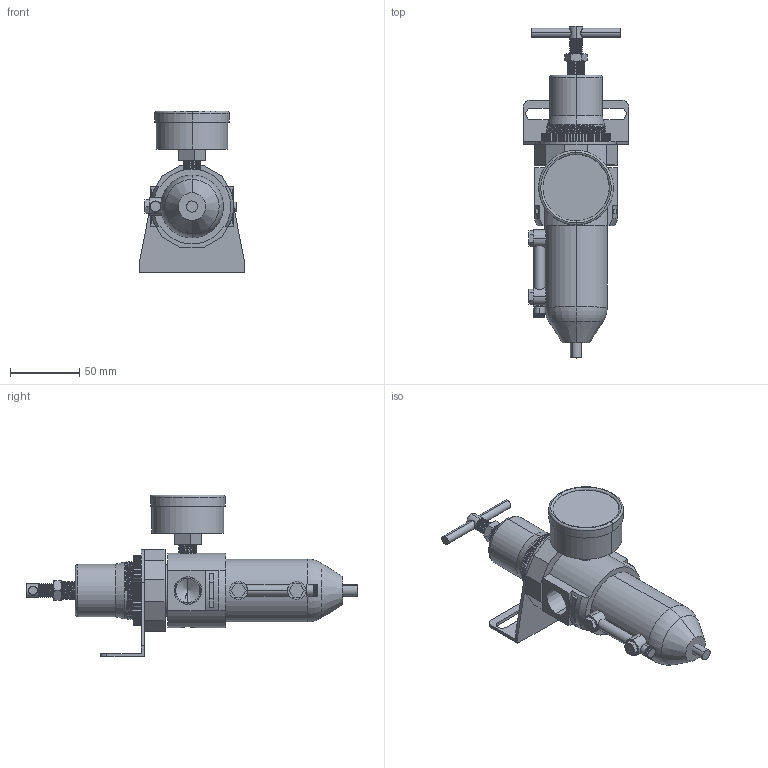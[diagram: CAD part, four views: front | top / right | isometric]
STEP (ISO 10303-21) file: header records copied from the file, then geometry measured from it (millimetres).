
FILE_DESCRIPTION (( 'STEP AP203' ), '1' );
FILE_NAME ('B012W-04#YGB#.STEP', '2016-02-16T03:17:32', ( '' ), ( '' ), 'SwSTEP 2.0', 'SolidWorks 2014', '' );
FILE_SCHEMA (( 'CONFIG_CONTROL_DESIGN' ));
Length unit declared in the file: millimetre
Products named in the file (18): 50-P-AD=1-4PT-2; 50-P-AD=1-4PT-1; R119-02-7; D011W-6; L606-W-06-5; KWR10X51; D011W-4; B011W-04; B012W-04#YGB#; 50-P-AD=1-4PT.SLDPRT; D011W-5; R119-02-5; R119-02-6; KWSAR10Y57; KWSAR10Y57-1; R011-1
Assembly tree (18 placements, depth 4):
  B012W-04#YGB#
    B011W-04
    50-P-AD=1-4PT.SLDPRT
      50-P-AD=1-4PT-1
      50-P-AD=1-4PT-2
    L606-W-06-5
    (unnamed)
      D011W-5  x2
      D011W-4
      D011W-6
    (unnamed)
      KWSAR10Y57
        KWSAR10Y57-1
        KWR10X51
      R011-1
      R119-02-5
      R119-02-6
      R119-02-7
Bounding box: 76 x 240 x 117 mm (x, y, z)
Volume: 401119.5 mm3; surface area: 76429.6 mm2
Topology: 14 solids, 14 shells, 747 faces, 2068 edges, 1361 vertices
Faces by surface type: plane 447, cylinder 248, cone 36, torus 8, bspline 8
Entity records: 31778 total; most frequent: CARTESIAN_POINT 11352, ORIENTED_EDGE 4072, DIRECTION 3709, EDGE_CURVE 2036, VERTEX_POINT 1345, VECTOR 1315, LINE 1315, AXIS2_PLACEMENT_3D 1197
